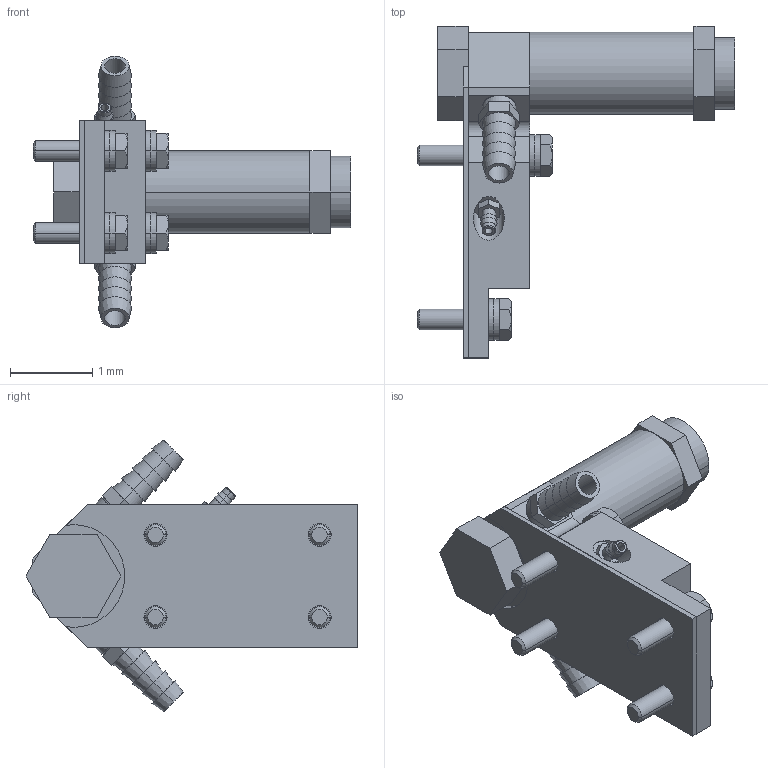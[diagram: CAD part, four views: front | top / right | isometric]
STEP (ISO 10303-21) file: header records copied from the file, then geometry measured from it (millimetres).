
FILE_DESCRIPTION((''),'2;1');
FILE_NAME('XM2.stp','2017-11-07T11:44:20',(''),(''),'Mechanical Desktop 2011','Mechanical Desktop 2011',', , ');
FILE_SCHEMA(('CONFIG_CONTROL_DESIGN'));
Length unit declared in the file: millimetre
Products named in the file (1): Product
Bounding box: 3.88 x 4.04 x 3.31 mm (x, y, z)
Volume: 6.8 mm3; surface area: 69.2 mm2
Topology: 22 solids, 22 shells, 329 faces, 715 edges, 460 vertices
Faces by surface type: plane 131, cylinder 96, cone 62, bspline 36, torus 4
Full cylindrical faces by diameter (mm): 0.375 x1
Entity records: 9657 total; most frequent: CARTESIAN_POINT 2271, DIRECTION 1574, ORIENTED_EDGE 1430, EDGE_CURVE 715, AXIS2_PLACEMENT_3D 615, VERTEX_POINT 460, EDGE_LOOP 401, VECTOR 344
